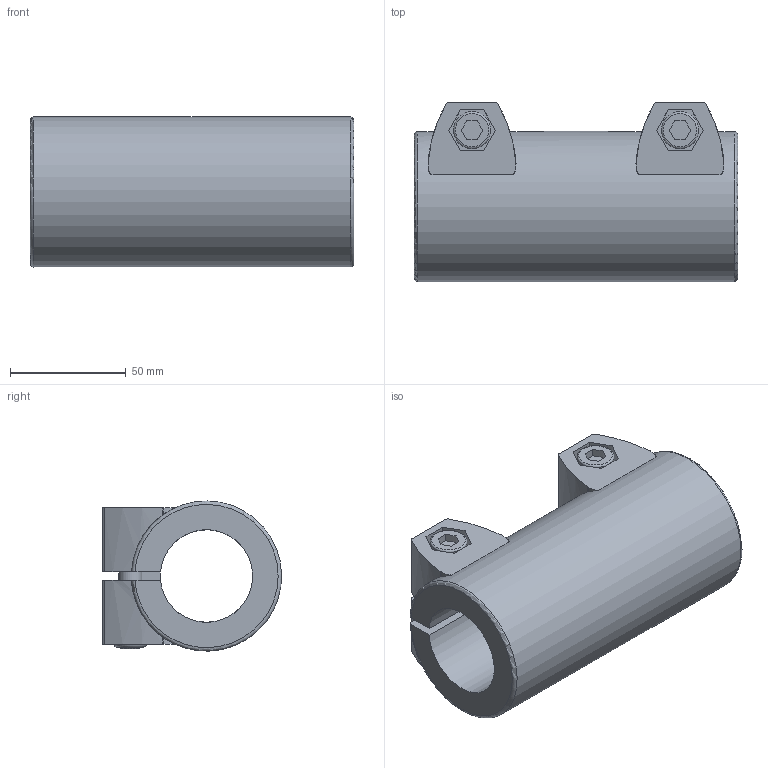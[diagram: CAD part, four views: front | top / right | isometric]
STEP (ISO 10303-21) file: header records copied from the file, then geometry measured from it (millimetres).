
FILE_DESCRIPTION( ( 'STEP AP203' ), '1' );
FILE_NAME( 'C:/Temp/Ganter_Step_05_03_2020/data/3_7/gn242/gn242_2/Tube connector GN 242-B40-B48-2-SW.stp', '2020-03-12T14:40:12', ( 'License CC BY-ND 4.0' ), ( 'CADENAS' ), ' ', 'PARTsolutions', ' ' );
FILE_SCHEMA( ( 'CONFIG_CONTROL_DESIGN' ) );
Length unit declared in the file: millimetre
Products named in the file (1): _Tube connector GN 242-B40-B48-2-SW
Bounding box: 140 x 77.48 x 64.96 mm (x, y, z)
Volume: 304527.7 mm3; surface area: 65212.2 mm2
Topology: 1 solids, 1 shells, 164 faces, 441 edges, 290 vertices
Faces by surface type: plane 85, cylinder 67, torus 8, cone 4
Full cylindrical faces by diameter (mm): 10 x2, 14 x2, 16 x2, 40 x1, 48 x1, 65 x1
Entity records: 5296 total; most frequent: CARTESIAN_POINT 1285, ORIENTED_EDGE 828, DIRECTION 790, EDGE_CURVE 414, VERTEX_POINT 284, AXIS2_PLACEMENT_3D 277, LINE 236, VECTOR 236
